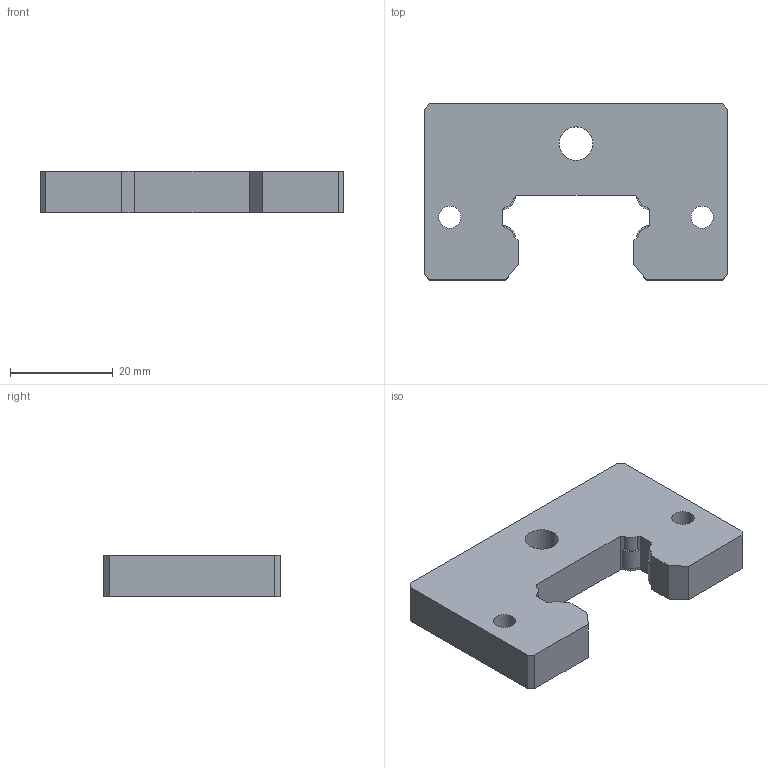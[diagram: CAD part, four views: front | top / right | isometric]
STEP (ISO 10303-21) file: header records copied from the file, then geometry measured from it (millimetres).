
FILE_DESCRIPTION (( 'STEP AP203' ), '1' );
FILE_NAME ('MF 30A.STEP', '2014-12-02T23:40:43', ( 'john' ), ( '' ), 'SwSTEP 2.0', 'SolidWorks 2013', '' );
FILE_SCHEMA (( 'CONFIG_CONTROL_DESIGN' ));
Length unit declared in the file: millimetre
Products named in the file (1): MF 30A
Bounding box: 59 x 34.2 x 8 mm (x, y, z)
Volume: 12346.8 mm3; surface area: 5234 mm2
Topology: 1 solids, 1 shells, 51 faces, 147 edges, 98 vertices
Faces by surface type: plane 36, cylinder 15
Full cylindrical faces by diameter (mm): 4.3 x2, 6.5 x1
Entity records: 1745 total; most frequent: CARTESIAN_POINT 294, ORIENTED_EDGE 288, DIRECTION 278, EDGE_CURVE 144, VECTOR 114, LINE 114, VERTEX_POINT 98, AXIS2_PLACEMENT_3D 82
